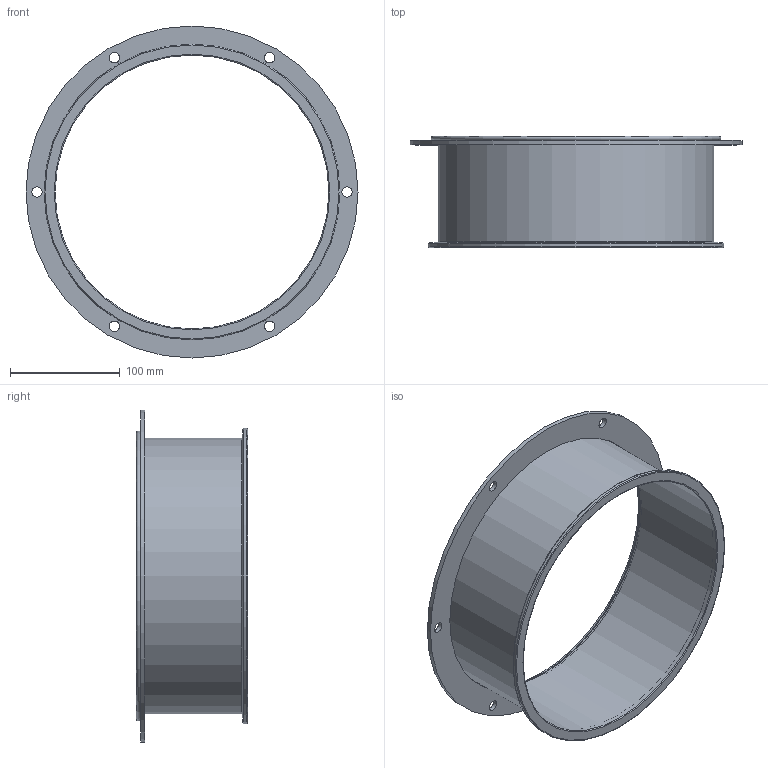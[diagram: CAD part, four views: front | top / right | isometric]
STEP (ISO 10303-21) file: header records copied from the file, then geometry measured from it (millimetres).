
FILE_DESCRIPTION(/* description */ (''),/* implementation_level */ '2;1');
FILE_NAME(/* name */ 'METU_EA103-41B_250_L100.stp',/* time_stamp */ '2018-10-10T11:40:59+02:00',/* author */ (''),/* organization */ (''),/* preprocessor_version */ 'ST-DEVELOPER v11',/* originating_system */ 'SIEMENS UGS NX 6.0',/* authorisation */ '');
FILE_SCHEMA (('CONFIG_CONTROL_DESIGN'));
Length unit declared in the file: millimetre
Products named in the file (1): garsCF17ddtb
Bounding box: 303 x 101.5 x 303 mm (x, y, z)
Volume: 202545.5 mm3; surface area: 255514.5 mm2
Topology: 3 solids, 3 shells, 30 faces, 68 edges, 47 vertices
Faces by surface type: cylinder 15, plane 9, torus 5, cone 1
Full cylindrical faces by diameter (mm): 9.5 x6, 250 x2, 251.6 x2, 253 x1, 261.6 x2, 270 x1, 303 x1
Entity records: 782 total; most frequent: DIRECTION 134, CARTESIAN_POINT 103, FACE_BOUND 72, EDGE_LOOP 72, ORIENTED_EDGE 72, AXIS2_PLACEMENT_3D 67, VERTEX_POINT 36, EDGE_CURVE 36
